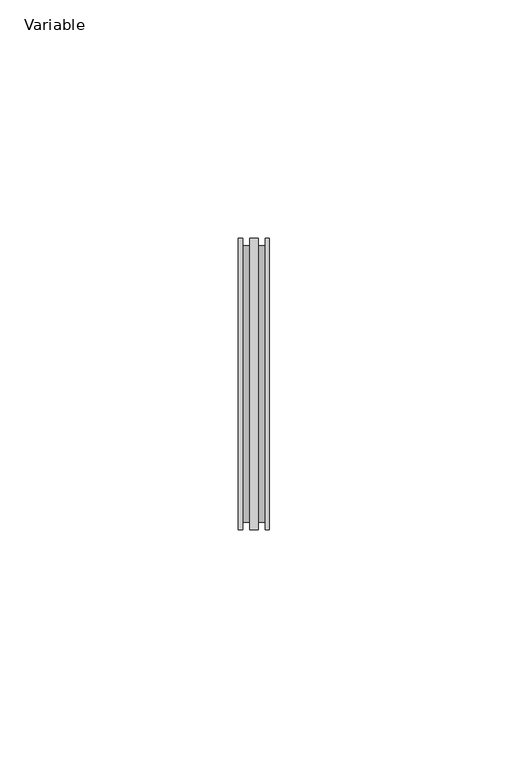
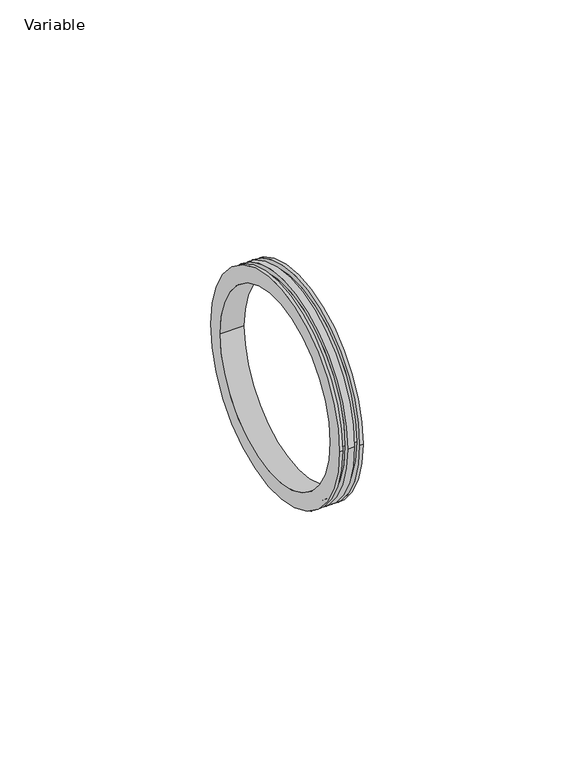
"""IFC4 building model written with IfcOpenShell, lengths in millimetres: pipe fitting geometry, AliaxisFR_Friaphon_EPDMGasket_FR : Variable."""

from ifc_helpers import new_model, si_unit, frame, origin, place, context, project, spatial, polyline, circle_curve, source, transform, mapped, element, save
from ifc_brep_helpers import plane_surface, cylinder_surface, revolved_surface, advanced_brep


def variable_32760ead(model_context):
    return source(origin(), model_context, "Body", "AdvancedBrep", [
        advanced_brep(
        [(3.25, -30.55, 0.0), (3.25, 30.55, 0.0), (3.25, -26.0, 0.0), (3.25, 26.0, 0.0), (-3.25, -30.55, 0.0), (-3.25, 30.55, 0.0), (-3.25, -26.0, 0.0), (-3.25, 26.0, 0.0), (2.3663702, -30.55, 0.0), (2.3663702, 30.55, 0.0), (-2.3663702, 30.55, 0.0), (-2.3663702, -30.55, 0.0), (-0.8836298, -30.55, 0.0), (-0.8836298, 30.55, 0.0), (0.8836298, 30.55, 0.0), (0.8836298, -30.55, 0.0), (-0.8836298, -29.05, 0.0), (-0.8836298, 29.05, 0.0), (-2.3663702, -29.05, 0.0), (-2.3663702, 29.05, 0.0), (2.3663702, -29.05, 0.0), (2.3663702, 29.05, 0.0), (0.8836298, -29.05, 0.0), (0.8836298, 29.05, 0.0)],
        [
            (0, 1, circle_curve(frame((3.25, 0.0, 0.0), z_axis=(1.0, 0.0, 0.0), x_axis=(0.0, 1.0, 0.0)), 30.55)),
            (1, 0, circle_curve(frame((3.25, 0.0, 0.0), z_axis=(1.0, 0.0, 0.0), x_axis=(0.0, 1.0, 0.0)), 30.55)),
            (2, 3, circle_curve(frame((3.25, 0.0, 0.0), z_axis=(-1.0, 0.0, 0.0), x_axis=(0.0, 1.0, 0.0)), 26.0)),
            (3, 2, circle_curve(frame((3.25, 0.0, 0.0), z_axis=(-1.0, 0.0, 0.0), x_axis=(0.0, 1.0, 0.0)), 26.0)),
            (4, 5, circle_curve(frame((-3.25, 0.0, 0.0), z_axis=(-1.0, 0.0, 0.0), x_axis=(0.0, 1.0, 0.0)), 30.55)),
            (5, 4, circle_curve(frame((-3.25, 0.0, 0.0), z_axis=(-1.0, 0.0, 0.0), x_axis=(0.0, 1.0, 0.0)), 30.55)),
            (6, 7, circle_curve(frame((-3.25, 0.0, 0.0), z_axis=(1.0, 0.0, 0.0), x_axis=(0.0, 1.0, 0.0)), 26.0)),
            (7, 6, circle_curve(frame((-3.25, 0.0, 0.0), z_axis=(1.0, 0.0, 0.0), x_axis=(0.0, 1.0, 0.0)), 26.0)),
            (0, 8),
            (8, 9, circle_curve(frame((2.3663702, 0.0, 0.0), z_axis=(1.0, 0.0, 0.0), x_axis=(0.0, 1.0, 0.0)), 30.55)),
            (9, 1),
            (5, 10),
            (10, 11, circle_curve(frame((-2.3663702, 0.0, 0.0), z_axis=(-1.0, 0.0, 0.0), x_axis=(0.0, 1.0, 0.0)), 30.55)),
            (11, 4),
            (12, 13, circle_curve(frame((-0.8836298, 0.0, 0.0), z_axis=(1.0, 0.0, 0.0), x_axis=(0.0, 1.0, 0.0)), 30.55)),
            (13, 14),
            (14, 15, circle_curve(frame((0.8836298, 0.0, 0.0), z_axis=(-1.0, 0.0, 0.0), x_axis=(0.0, 1.0, 0.0)), 30.55)),
            (15, 12),
            (9, 8, circle_curve(frame((2.3663702, 0.0, 0.0), z_axis=(1.0, 0.0, 0.0), x_axis=(0.0, 1.0, 0.0)), 30.55)),
            (11, 10, circle_curve(frame((-2.3663702, 0.0, 0.0), z_axis=(-1.0, 0.0, 0.0), x_axis=(0.0, 1.0, 0.0)), 30.55)),
            (13, 12, circle_curve(frame((-0.8836298, 0.0, 0.0), z_axis=(1.0, 0.0, 0.0), x_axis=(0.0, 1.0, 0.0)), 30.55)),
            (15, 14, circle_curve(frame((0.8836298, 0.0, 0.0), z_axis=(-1.0, 0.0, 0.0), x_axis=(0.0, 1.0, 0.0)), 30.55)),
            (2, 6),
            (7, 3),
            (16, 17, circle_curve(frame((-0.8836298, 0.0, 0.0), z_axis=(1.0, 0.0, 0.0), x_axis=(0.0, 1.0, 0.0)), 29.05)),
            (17, 16, circle_curve(frame((-0.8836298, 0.0, 0.0), z_axis=(1.0, 0.0, 0.0), x_axis=(0.0, 1.0, 0.0)), 29.05)),
            (18, 19, circle_curve(frame((-2.3663702, 0.0, 0.0), z_axis=(-1.0, 0.0, 0.0), x_axis=(0.0, 1.0, 0.0)), 29.05)),
            (19, 18, circle_curve(frame((-2.3663702, 0.0, 0.0), z_axis=(-1.0, 0.0, 0.0), x_axis=(0.0, 1.0, 0.0)), 29.05)),
            (17, 19),
            (18, 16),
            (20, 21, circle_curve(frame((2.3663702, 0.0, 0.0), z_axis=(1.0, 0.0, 0.0), x_axis=(0.0, 1.0, 0.0)), 29.05)),
            (21, 20, circle_curve(frame((2.3663702, 0.0, 0.0), z_axis=(1.0, 0.0, 0.0), x_axis=(0.0, 1.0, 0.0)), 29.05)),
            (22, 23, circle_curve(frame((0.8836298, 0.0, 0.0), z_axis=(-1.0, 0.0, 0.0), x_axis=(0.0, 1.0, 0.0)), 29.05)),
            (23, 22, circle_curve(frame((0.8836298, 0.0, 0.0), z_axis=(-1.0, 0.0, 0.0), x_axis=(0.0, 1.0, 0.0)), 29.05)),
            (21, 23),
            (22, 20),
        ],
        [
            plane_surface(frame((3.25, 30.55, 0.0), z_axis=(1.0, 0.0, 0.0), x_axis=(0.0, 0.0, 1.0))),
            plane_surface(frame((-3.25, 30.55, 0.0), z_axis=(-1.0, 0.0, 0.0), x_axis=(0.0, 0.0, -1.0))),
            cylinder_surface(frame((-3.25, 0.0, 0.0), z_axis=(1.0, 0.0, 0.0), x_axis=(0.0, 1.0, 0.0)), 30.55),
            revolved_surface(polyline([(-3.25, 26.0, 0.0), (3.25, 26.0, 0.0)]), (0.0, 0.0, 0.0), (-1.0, 0.0, 0.0)),
            plane_surface(frame((-0.8836298, 30.55, 0.0), z_axis=(-1.0, 0.0, 0.0), x_axis=(0.0, 0.0, 1.0))),
            plane_surface(frame((-2.3663702, 30.55, 0.0), z_axis=(1.0, 0.0, 0.0), x_axis=(0.0, 0.0, -1.0))),
            cylinder_surface(frame((0.0, 0.0, 0.0), z_axis=(-1.0, 0.0, 0.0), x_axis=(0.0, 1.0, 0.0)), 29.05),
            plane_surface(frame((2.3663702, 30.55, 0.0), z_axis=(-1.0, 0.0, 0.0), x_axis=(0.0, 0.0, 1.0))),
            plane_surface(frame((0.8836298, 30.55, 0.0), z_axis=(1.0, 0.0, 0.0), x_axis=(0.0, 0.0, -1.0))),
        ],
        [
            (0, [[1, 2], [3, 4]]),
            (1, [[5, 6], [7, 8]]),
            (2, [[-1, 9, 10, 11]]),
            (2, [[-6, 12, 13, 14]]),
            (2, [[15, 16, 17, 18]]),
            (2, [[-2, -11, 19, -9]]),
            (2, [[-5, -14, 20, -12]]),
            (2, [[21, -18, 22, -16]]),
            (3, [[-3, 23, -8, 24]]),
            (3, [[-4, -24, -7, -23]]),
            (4, [[-15, -21], [25, 26]]),
            (5, [[-13, -20], [27, 28]]),
            (6, [[-26, 29, -27, 30]]),
            (6, [[-25, -30, -28, -29]]),
            (7, [[-10, -19], [31, 32]]),
            (8, [[-17, -22], [33, 34]]),
            (6, [[-32, 35, -33, 36]]),
            (6, [[-31, -36, -34, -35]]),
        ],
    ),
    ])


if __name__ == "__main__":
    model = new_model("IFC4")
    model_context = context("Model", 3, world=origin())
    ifc_project = project(units=[si_unit("LENGTHUNIT", "METRE", prefix="MILLI")], contexts=[model_context])
    site = spatial("IfcSite", under=ifc_project)
    building = spatial("IfcBuilding", under=site)
    placement = place(None, origin())
    variable_shape = variable_32760ead(model_context)
    element("IfcPipeFitting", 1, ObjectType="AliaxisFR_Friaphon_EPDMGasket_FR : Variable", at=placement, inside=building, context=model_context, shape_type="MappedRepresentation", body=[
        mapped(variable_shape, transform((0.0, 0.0, 0.0), x_axis=(1.0, 0.0, 0.0), y_axis=(0.0, 1.0, 0.0), z_axis=(0.0, 0.0, 1.0))),
    ])
    save(model, "model.ifc")
